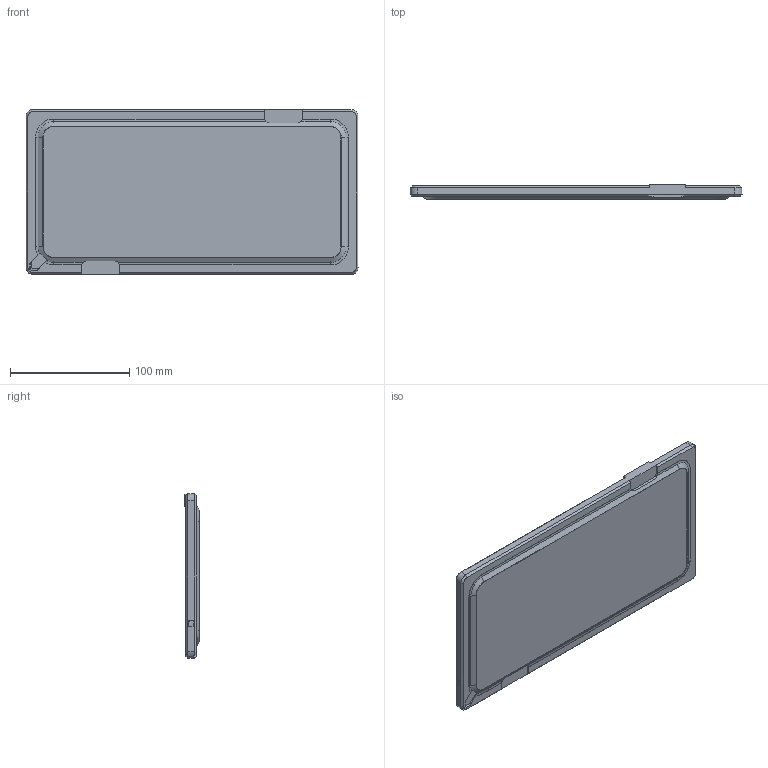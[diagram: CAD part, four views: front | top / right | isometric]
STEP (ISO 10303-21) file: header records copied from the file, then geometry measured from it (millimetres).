
FILE_DESCRIPTION(/* description */ (''),/* implementation_level */ '2;1');
FILE_NAME(/* name */ 'ROXX_NEO mini_Filter_3D_step',/* time_stamp */ '2025-03-14T13:00:34+01:00',/* author */ (''),/* organization */ (''),/* preprocessor_version */ 'ST-DEVELOPER v16.5',/* originating_system */ 'Rhino 7.38',/* authorisation */ '');
FILE_SCHEMA (('CONFIG_CONTROL_DESIGN'));
Length unit declared in the file: millimetre
Products named in the file (1): Document
Bounding box: 278.37 x 12.3 x 138.23 mm (x, y, z)
Volume: 207644 mm3; surface area: 85684.1 mm2
Topology: 1 solids, 1 shells, 155 faces, 403 edges, 253 vertices
Faces by surface type: plane 78, bspline 48, cylinder 29
Entity records: 5666 total; most frequent: CARTESIAN_POINT 3043, ORIENTED_EDGE 806, EDGE_CURVE 403, B_SPLINE_CURVE_WITH_KNOTS 277, VERTEX_POINT 253, EDGE_LOOP 158, ADVANCED_FACE 155, FACE_OUTER_BOUND 155
